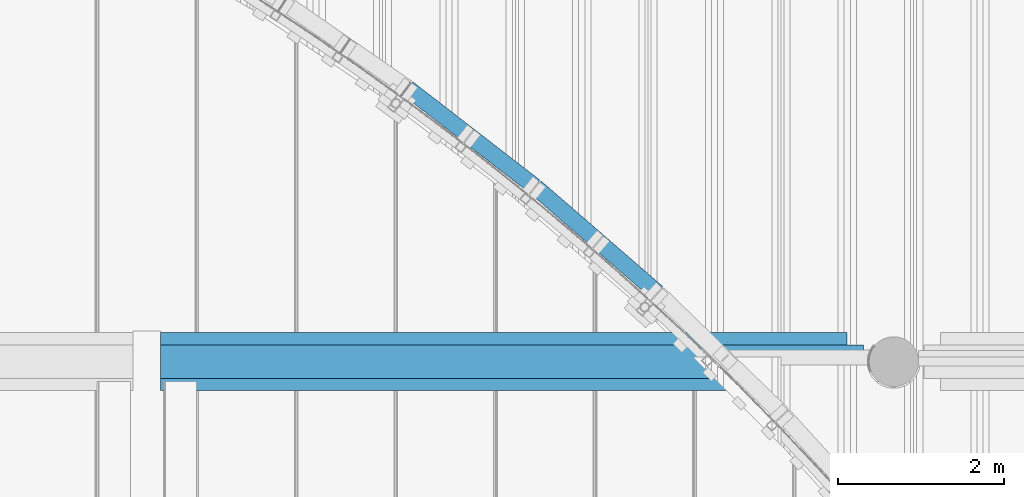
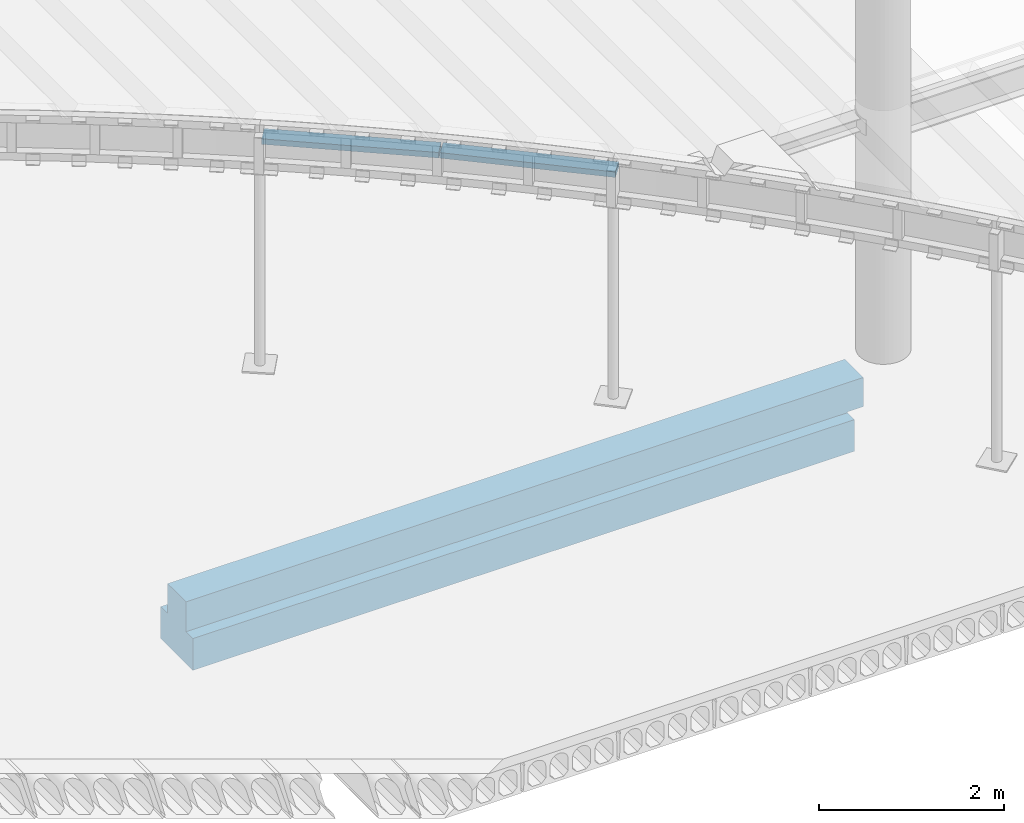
# One storey, part 14 of 98: 3 beams.
"""IFC2X3 building model written with IfcOpenShell, lengths in millimetres."""

from ifc_helpers import new_model, entity, si_unit, converted_unit, derived_unit, direction, frame, origin_with_axes, place, context, subcontext, project, spatial, faceted_brep, material, type_object, element, save


model = new_model("IFC2X3")

# Units and contexts
model_context = context("Model", 3, precision=0.01, world=frame((0.0, 4.29681676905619e-09, 0.0)), true_north=direction((4.01073788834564e-13, 1.0)))
plan_context = context("Plan", 3, precision=0.01, world=frame((0.0, 4.29681676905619e-09, 0.0)), true_north=direction((4.01073788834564e-13, 1.0)))
body_context = subcontext(model_context, "Body", "Model", "MODEL_VIEW")
ifc_project = project(units=[converted_unit("PLANEANGLEUNIT", "DEGREE", entity("IfcPositiveLengthMeasure", 0.0174532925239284), si_unit("PLANEANGLEUNIT", "RADIAN"), dimensions=[0, 0, 0, 0, 0, 0, 0]), si_unit("AREAUNIT", "SQUARE_METRE"), si_unit("LENGTHUNIT", "METRE", prefix="MILLI"), si_unit("MASSUNIT", "GRAM", prefix="KILO"), si_unit("POWERUNIT", "WATT"), si_unit("PRESSUREUNIT", "PASCAL"), si_unit("FORCEUNIT", "NEWTON", prefix="KILO"), si_unit("ELECTRICCURRENTUNIT", "AMPERE"), si_unit("THERMODYNAMICTEMPERATUREUNIT", "DEGREE_CELSIUS"), si_unit("TIMEUNIT", "SECOND"), si_unit("VOLUMEUNIT", "CUBIC_METRE"), derived_unit("LINEARVELOCITYUNIT", [(si_unit("LENGTHUNIT", "METRE"), 1), (si_unit("TIMEUNIT", "SECOND"), -1)]), derived_unit("VOLUMETRICFLOWRATEUNIT", [(si_unit("VOLUMEUNIT", "CUBIC_METRE"), 1), (si_unit("TIMEUNIT", "SECOND"), -1)]), derived_unit("THERMALTRANSMITTANCEUNIT", [(si_unit("POWERUNIT", "WATT"), 1), (si_unit("THERMODYNAMICTEMPERATUREUNIT", "KELVIN"), -1), (si_unit("AREAUNIT", "SQUARE_METRE"), -1)])], contexts=[model_context, plan_context])

# Site, building, storey
site_placement = place(None, frame((0.0, -4.29681676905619e-09, 0.0), z_axis=(0.0, 0.0, 1.0), x_axis=(1.0, 0.0, 0.0)))
site = spatial("IfcSite", under=ifc_project, at=site_placement, Name="Gardermoen", CompositionType="ELEMENT")
building_placement = place(site_placement, frame((0.0, 4.29681676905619e-09, 0.0), z_axis=(0.0, 0.0, 1.0), x_axis=(1.0, 0.0, 0.0)))
building = spatial("IfcBuilding", under=site, at=building_placement, Name="TS", CompositionType="ELEMENT")
storey_placement = place(building_placement, origin_with_axes())
storey = spatial("IfcBuildingStorey", under=building, at=storey_placement, Name="D", CompositionType="ELEMENT", Elevation=0.0)

# Beams
ifc_material_1 = material(Name="TIMBER/GL36c")
beam_type_1 = type_object("IfcBeamType", Name="PL73*198", PredefinedType="NOTDEFINED")
beam_1_placement = place(storey_placement, frame((524674.344956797, 407610.478317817, 206786.5), z_axis=(-0.611672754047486, -0.791110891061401, 0.0), x_axis=(-0.791110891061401, 0.611672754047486, 0.0)))
element("IfcBeam", 1, at=beam_1_placement, inside=storey, type_object=beam_type_1, material=ifc_material_1, Name="TREBJELKE", ObjectType="PL73*198", context=body_context, shape_type="Brep", body=[
    faceted_brep([(2.3283064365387e-10, 36.5, -99.0000000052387), (-2.3283064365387e-10, 36.5, 99.0000000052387), (1935.53685159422, 36.5, 98.9999999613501), (1935.53685159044, 36.5, -99.0000000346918), (-2.3283064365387e-10, -36.5, 99.0000000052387), (1935.53685159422, -36.5, 98.9999999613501), (2.3283064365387e-10, -36.5, -99.0000000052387), (1935.53685159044, -36.5, -99.0000000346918)], [[[0, 1, 2, 3]], [[1, 4, 5, 2]], [[4, 6, 7, 5]], [[6, 0, 3, 7]], [[5, 7, 3, 2]], [[6, 4, 1, 0]]]),
])
beam_2_placement = place(storey_placement, frame((526150.524694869, 406332.243671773, 206786.5), z_axis=(-0.654940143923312, -0.755680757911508, 0.0), x_axis=(-0.755680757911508, 0.654940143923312, 0.0)))
element("IfcBeam", 2, at=beam_2_placement, inside=storey, type_object=beam_type_1, material=ifc_material_1, Name="TREBJELKE", ObjectType="PL73*198", context=body_context, shape_type="Brep", body=[
    faceted_brep([(2.3283064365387e-10, 36.5, -99.0000000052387), (-2.3283064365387e-10, 36.5, 99.0000000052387), (1937.1451236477, 36.5, 99.0000000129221), (1937.14512364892, 36.5, -98.9999999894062), (-2.3283064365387e-10, -36.5, 99.0000000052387), (1937.1451236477, -36.5, 99.0000000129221), (2.3283064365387e-10, -36.5, -99.0000000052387), (1937.14512364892, -36.5, -98.9999999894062)], [[[0, 1, 2, 3]], [[1, 4, 5, 2]], [[4, 6, 7, 5]], [[6, 0, 3, 7]], [[5, 7, 3, 2]], [[6, 4, 1, 0]]]),
])
ifc_material_2 = material(Name="CONCRETE/C45/55")
beam_type_2 = type_object("IfcBeamType", Name="DLB400*815-700*420", PredefinedType="NOTDEFINED")
beam_3_placement = place(storey_placement, frame((520164.999766, 405499.995625, 203387.5), z_axis=(0.0, 0.0, 1.0), x_axis=(1.0, 0.0, 0.0)))
element("IfcBeam", 3, at=beam_3_placement, inside=storey, type_object=beam_type_2, material=ifc_material_2, Name="PREFABBJELKE", ObjectType="DLB400*815-700*420", context=body_context, shape_type="Brep", body=[
    faceted_brep([(8270.0, -200.0, 12.5), (8270.0, -350.0, 12.5), (8270.0, -350.0, -407.5), (8270.0, 350.0, -407.5), (8270.0, 350.0, 12.5), (8270.0, 200.0, 12.5), (8270.0, 200.0, 22.5), (8270.0, -200.0, 22.5), (8470.0, -200.0, 22.5), (8470.0, 200.0, 22.5), (0.0, -350.0, -407.5), (0.0, -350.0, 12.5), (0.0, -200.0, 12.5), (0.0, -200.0, 407.5), (0.0, 200.0, 407.5), (0.0, 200.0, 12.5), (0.0, 350.0, 12.5), (0.0, 350.0, -407.5), (8470.0, -200.0, 407.5), (8470.0, 200.0, 407.5)], [[[0, 1, 2, 3, 4, 5, 6, 7]], [[8, 7, 6, 9]], [[10, 11, 12, 13, 14, 15, 16, 17]], [[14, 13, 18, 19]], [[19, 18, 8, 9]], [[5, 15, 14, 19, 9, 6]], [[16, 15, 5, 4]], [[17, 16, 4, 3]], [[10, 17, 3, 2]], [[11, 10, 2, 1]], [[12, 11, 1, 0]], [[18, 13, 12, 0, 7, 8]]]),
])

save(model, "model.ifc")
